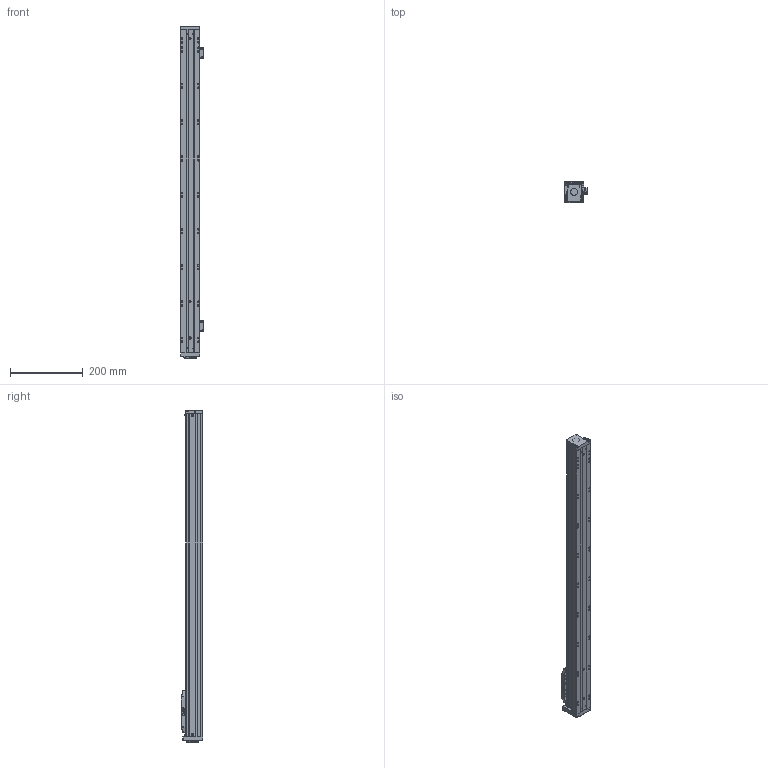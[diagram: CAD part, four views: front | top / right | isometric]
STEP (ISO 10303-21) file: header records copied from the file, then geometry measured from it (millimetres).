
FILE_DESCRIPTION (( 'STEP AP203' ), '1' );
FILE_NAME ('KTH5-L10-S750.STEP', '2019-12-19T08:40:40', ( '微软用户' ), ( '微软中国' ), 'SwSTEP 2.0', 'SolidWorks 2017', '' );
FILE_SCHEMA (( 'CONFIG_CONTROL_DESIGN' ));
Length unit declared in the file: millimetre
Products named in the file (16): GB╱T 70.2-2008[内六角平圆头螺钉M3×10]_M3×10; LES50-001菁釱; ヶ裔-党蜊唳; LES50-004賑釱; 粣創釱-郔笝唳20190813; 耜啣; 嫖萇羲壽諉揖え; 階裔; EE-SX674; 棠沭; EE-SX674WR嫖萇羲壽假蚾啣; LES50-013癹弇菜; KTH5-L10-S750; 詩湍揤啣; 詩湍; GB╱T 70.1-2008[内六角圆柱头螺钉M4×16]_M4×16
Assembly tree (31 placements, depth 2):
  KTH5-L10-S750
    LES50-001菁釱
    LES50-004賑釱
    耜啣  x2
    階裔
    棠沭  x2
    LES50-013癹弇菜  x2
    詩湍
    詩湍揤啣  x2
    GB╱T 70.1-2008[内六角圆柱头螺钉M4×16]_M4×16  x4
    GB╱T 70.2-2008[内六角平圆头螺钉M3×10]_M3×10  x8
    ヶ裔-党蜊唳
    粣創釱-郔笝唳20190813
    嫖萇羲壽諉揖え
    EE-SX674  x2
    EE-SX674WR嫖萇羲壽假蚾啣  x2
Bounding box: 64.25 x 60 x 915 mm (x, y, z)
Volume: 843391.8 mm3; surface area: 453621.4 mm2
Topology: 31 solids, 31 shells, 1441 faces, 3500 edges, 2138 vertices
Faces by surface type: plane 654, cylinder 479, cone 244, torus 36, sphere 16, bspline 12
Entity records: 33434 total; most frequent: CARTESIAN_POINT 5925, DIRECTION 5476, ORIENTED_EDGE 5044, EDGE_CURVE 2522, AXIS2_PLACEMENT_3D 1944, VERTEX_POINT 1603, VECTOR 1588, LINE 1588
